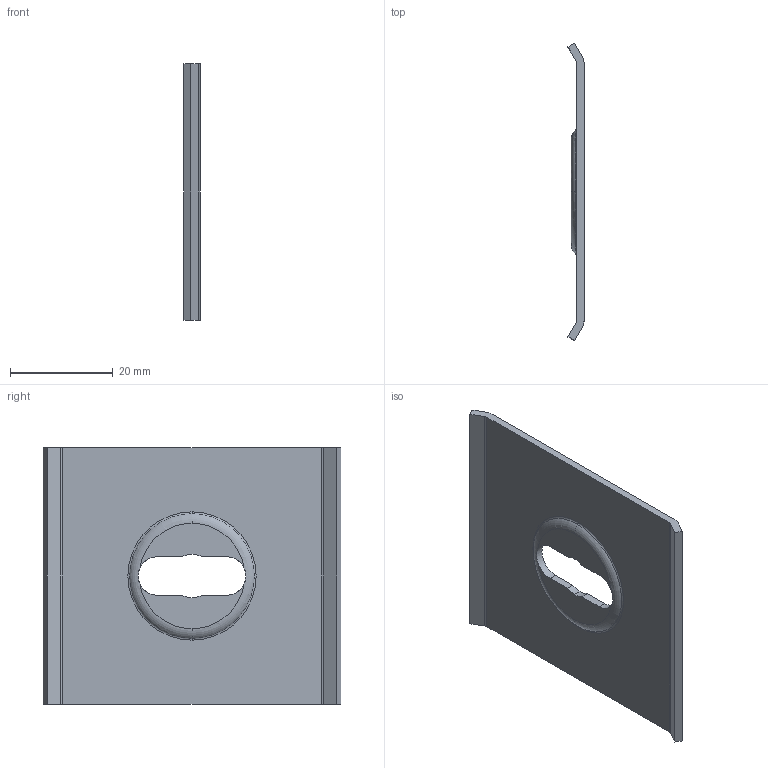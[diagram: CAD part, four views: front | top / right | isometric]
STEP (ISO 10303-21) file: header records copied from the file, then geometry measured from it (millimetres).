
FILE_DESCRIPTION (( 'STEP AP214' ), '1' );
FILE_NAME ('Clame UF.step', '2017-04-05T07:53:34', ( '' ), ( '' ), 'SwSTEP 2.0', 'SolidWorks 2015', '' );
FILE_SCHEMA (( 'AUTOMOTIVE_DESIGN' ));
Length unit declared in the file: millimetre
Products named in the file (1): Clame UF
Bounding box: 3.13 x 58 x 50 mm (x, y, z)
Volume: 3874.8 mm3; surface area: 5965.9 mm2
Topology: 1 solids, 1 shells, 34 faces, 89 edges, 58 vertices
Faces by surface type: plane 17, cylinder 9, torus 8
Entity records: 1115 total; most frequent: CARTESIAN_POINT 200, DIRECTION 199, ORIENTED_EDGE 178, EDGE_CURVE 89, AXIS2_PLACEMENT_3D 77, VERTEX_POINT 58, LINE 45, VECTOR 45
